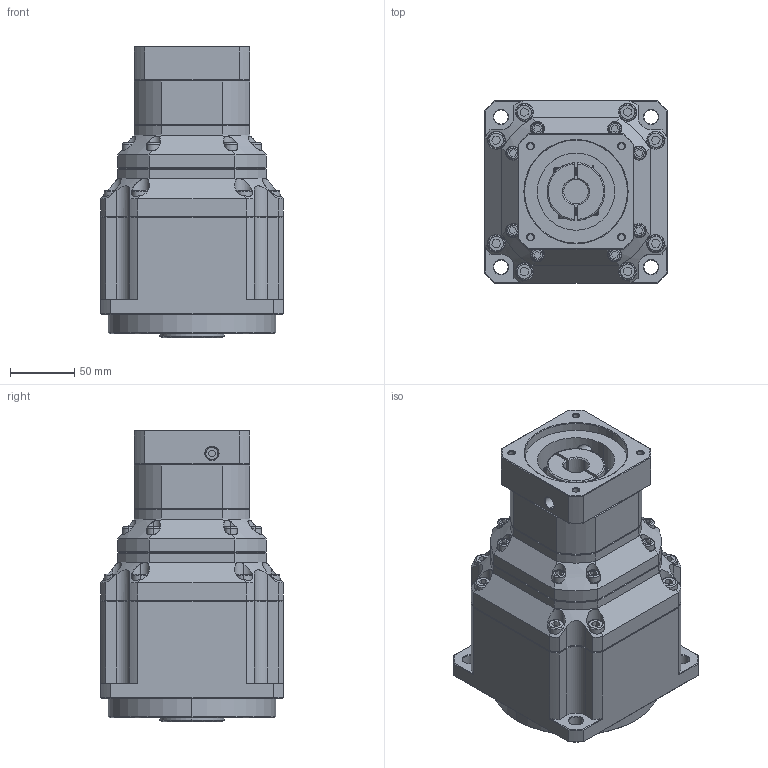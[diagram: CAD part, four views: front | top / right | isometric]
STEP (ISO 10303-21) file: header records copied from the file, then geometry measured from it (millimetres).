
FILE_DESCRIPTION (( 'STEP AP214' ), '1' );
FILE_NAME ('ZPB142-K35-L3-P1-19-80-100-M6.step', '2024-07-05T00:13:01', ( 'Windows 蚚誧' ), ( 'Organization' ), 'SwSTEP 2.0', 'SolidWorks 2016', '' );
FILE_SCHEMA (( 'AUTOMOTIVE_DESIGN' ));
Length unit declared in the file: millimetre
Products named in the file (1): ZPB142-K35-L3-P1-19-80-100-M6
Bounding box: 142 x 142 x 226.5 mm (x, y, z)
Surface area: 169023.5 mm2 (no closed solid volume)
Topology: 0 solids, 2 shells, 1905 faces, 5061 edges, 3266 vertices
Faces by surface type: plane 1105, bspline 408, cylinder 231, cone 161
Entity records: 95679 total; most frequent: CARTESIAN_POINT 42454, ORIENTED_EDGE 10090, DIRECTION 7574, EDGE_CURVE 5061, LINE 3366, VECTOR 3366, VERTEX_POINT 3266, AXIS2_PLACEMENT_3D 2104
